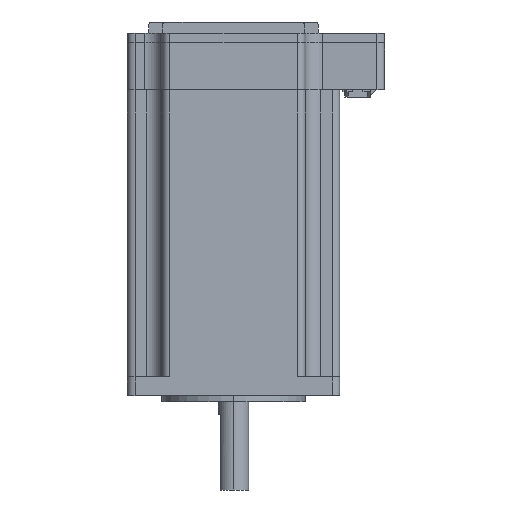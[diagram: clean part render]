
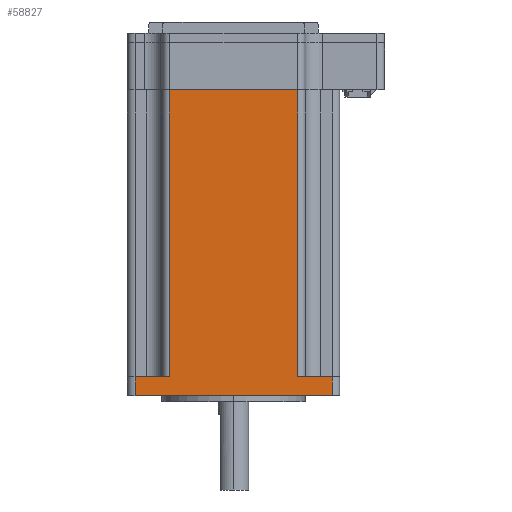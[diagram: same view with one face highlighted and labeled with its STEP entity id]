
A CAD part, left-side view. The second image highlights one B-rep face of the part: STEP entity #58827.
In plain terms, the highlighted planar face has unit normal (-1, 0, 0) as drawn and (1, 0, 0) by its records, which use the part's own axes.
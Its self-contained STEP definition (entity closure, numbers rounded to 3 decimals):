
#2738 = EDGE_CURVE ( 'NONE', #69421, #87015, #19107, .T. ) ;
#3644 = VERTEX_POINT ( 'NONE', #86762 ) ;
#6209 = ORIENTED_EDGE ( 'NONE', *, *, #62498, .T. ) ;
#11325 = DIRECTION ( 'NONE',  ( 0., 0., 1. ) ) ;
#11938 = CARTESIAN_POINT ( 'NONE',  ( 28.1, -17., -76. ) ) ;
#12900 = DIRECTION ( 'NONE',  ( 0., -1., 0. ) ) ;
#14489 = VECTOR ( 'NONE', #18958, 1000. ) ;
#18958 = DIRECTION ( 'NONE',  ( 0., 1., 0. ) ) ;
#19095 = ORIENTED_EDGE ( 'NONE', *, *, #36028, .T. ) ;
#19107 = LINE ( 'NONE', #72809, #67959 ) ;
#19394 = ORIENTED_EDGE ( 'NONE', *, *, #2738, .F. ) ;
#20015 = LINE ( 'NONE', #29496, #14489 ) ;
#20514 = ORIENTED_EDGE ( 'NONE', *, *, #37527, .F. ) ;
#23746 = ORIENTED_EDGE ( 'NONE', *, *, #96480, .T. ) ;
#24432 = CARTESIAN_POINT ( 'NONE',  ( 28.1, 26.1, 5. ) ) ;
#25600 = CARTESIAN_POINT ( 'NONE',  ( 28.1, 26.1, 0. ) ) ;
#26650 = VECTOR ( 'NONE', #100901, 1000. ) ;
#27855 = VECTOR ( 'NONE', #65398, 1000. ) ;
#29496 = CARTESIAN_POINT ( 'NONE',  ( 28.1, -26.1, 0. ) ) ;
#32723 = ORIENTED_EDGE ( 'NONE', *, *, #35610, .T. ) ;
#33417 = FACE_OUTER_BOUND ( 'NONE', #103171, .T. ) ;
#35610 = EDGE_CURVE ( 'NONE', #79203, #88844, #68927, .T. ) ;
#36028 = EDGE_CURVE ( 'NONE', #3644, #80981, #97450, .T. ) ;
#36513 = VECTOR ( 'NONE', #50594, 1000. ) ;
#36595 = DIRECTION ( 'NONE',  ( 0., 0., 1. ) ) ;
#37527 = EDGE_CURVE ( 'NONE', #47494, #88844, #101463, .T. ) ;
#40689 = DIRECTION ( 'NONE',  ( 0., 0., 1. ) ) ;
#43319 = LINE ( 'NONE', #86472, #52718 ) ;
#47494 = VERTEX_POINT ( 'NONE', #103236 ) ;
#48679 = CARTESIAN_POINT ( 'NONE',  ( 28.1, -26.1, 5. ) ) ;
#49229 = ORIENTED_EDGE ( 'NONE', *, *, #88469, .F. ) ;
#50594 = DIRECTION ( 'NONE',  ( 0., 1., 0. ) ) ;
#50667 = LINE ( 'NONE', #86107, #61124 ) ;
#52718 = VECTOR ( 'NONE', #36595, 1000. ) ;
#56456 = VECTOR ( 'NONE', #11325, 1000. ) ;
#58365 = DIRECTION ( 'NONE',  ( -1., 0., 0. ) ) ;
#58827 = ADVANCED_FACE ( 'NONE', ( #33417 ), #66729, .F. ) ;
#60579 = CARTESIAN_POINT ( 'NONE',  ( 28.1, -26.1, 0. ) ) ;
#61124 = VECTOR ( 'NONE', #109408, 1000. ) ;
#61567 = VERTEX_POINT ( 'NONE', #71586 ) ;
#62498 = EDGE_CURVE ( 'NONE', #80981, #61567, #20015, .T. ) ;
#65398 = DIRECTION ( 'NONE',  ( 0., 0., -1. ) ) ;
#66729 = PLANE ( 'NONE',  #89314 ) ;
#67959 = VECTOR ( 'NONE', #12900, 1000. ) ;
#68927 = LINE ( 'NONE', #60579, #36513 ) ;
#69421 = VERTEX_POINT ( 'NONE', #90819 ) ;
#71586 = CARTESIAN_POINT ( 'NONE',  ( 28.1, -17., 0. ) ) ;
#71923 = EDGE_CURVE ( 'NONE', #3644, #47494, #50667, .T. ) ;
#72809 = CARTESIAN_POINT ( 'NONE',  ( 28.1, -17., -76. ) ) ;
#79203 = VERTEX_POINT ( 'NONE', #104685 ) ;
#80256 = ORIENTED_EDGE ( 'NONE', *, *, #71923, .F. ) ;
#80981 = VERTEX_POINT ( 'NONE', #91702 ) ;
#82213 = CARTESIAN_POINT ( 'NONE',  ( 28.1, -26.1, 5. ) ) ;
#86107 = CARTESIAN_POINT ( 'NONE',  ( 28.1, -26.1, 5. ) ) ;
#86472 = CARTESIAN_POINT ( 'NONE',  ( 28.1, 17., -76. ) ) ;
#86762 = CARTESIAN_POINT ( 'NONE',  ( 28.1, -26.1, 5. ) ) ;
#87015 = VERTEX_POINT ( 'NONE', #11938 ) ;
#87788 = LINE ( 'NONE', #103826, #56456 ) ;
#88469 = EDGE_CURVE ( 'NONE', #87015, #61567, #87788, .T. ) ;
#88844 = VERTEX_POINT ( 'NONE', #25600 ) ;
#89314 = AXIS2_PLACEMENT_3D ( 'NONE', #82213, #58365, #40689 ) ;
#90819 = CARTESIAN_POINT ( 'NONE',  ( 28.1, 17., -76. ) ) ;
#91702 = CARTESIAN_POINT ( 'NONE',  ( 28.1, -26.1, 0. ) ) ;
#96480 = EDGE_CURVE ( 'NONE', #69421, #79203, #43319, .T. ) ;
#97450 = LINE ( 'NONE', #48679, #27855 ) ;
#100901 = DIRECTION ( 'NONE',  ( 0., 0., -1. ) ) ;
#101463 = LINE ( 'NONE', #24432, #26650 ) ;
#103171 = EDGE_LOOP ( 'NONE', ( #6209, #49229, #19394, #23746, #32723, #20514, #80256, #19095 ) ) ;
#103236 = CARTESIAN_POINT ( 'NONE',  ( 28.1, 26.1, 5. ) ) ;
#103826 = CARTESIAN_POINT ( 'NONE',  ( 28.1, -17., -76. ) ) ;
#104685 = CARTESIAN_POINT ( 'NONE',  ( 28.1, 17., 0. ) ) ;
#109408 = DIRECTION ( 'NONE',  ( 0., 1., 0. ) ) ;
